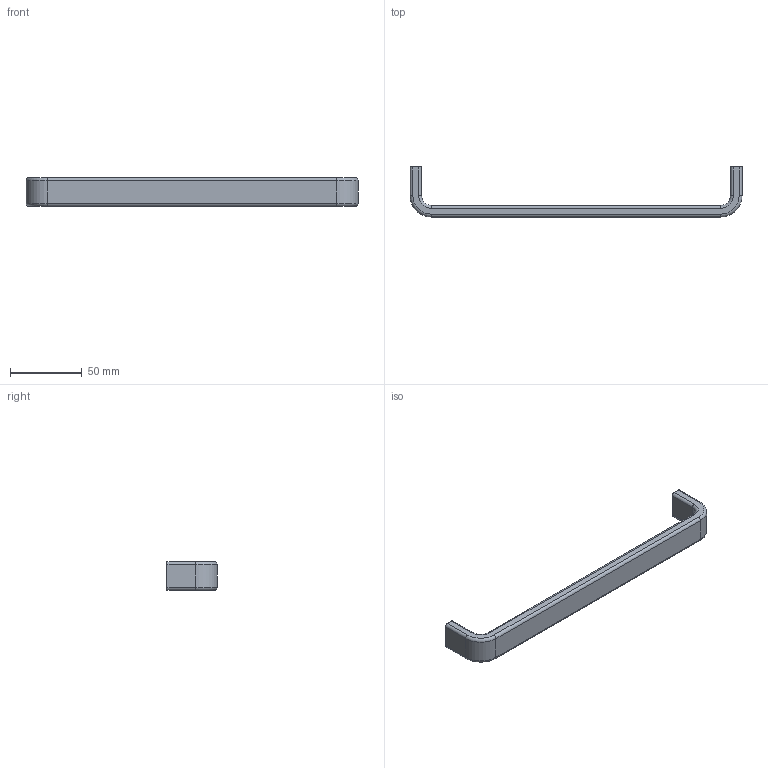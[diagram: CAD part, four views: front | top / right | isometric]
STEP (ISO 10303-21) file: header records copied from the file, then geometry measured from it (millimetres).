
FILE_DESCRIPTION( ( '' ), '1' );
FILE_NAME( 'C:/Documents and Settings/Sachin/Desktop/Sheet 10_1/stp/ 115150.stp', '2013-10-22T11:19:32', ( '' ), ( '' ), ' ', ' ', ' ' );
FILE_SCHEMA( ( 'CONFIG_CONTROL_DESIGN' ) );
Length unit declared in the file: millimetre
Products named in the file (1): 1
Bounding box: 232 x 35 x 20 mm (x, y, z)
Volume: 42906.9 mm3; surface area: 15164.9 mm2
Topology: 1 solids, 1 shells, 40 faces, 92 edges, 56 vertices
Faces by surface type: cylinder 20, plane 12, torus 8
Entity records: 1180 total; most frequent: DIRECTION 222, CARTESIAN_POINT 189, ORIENTED_EDGE 184, EDGE_CURVE 92, AXIS2_PLACEMENT_3D 89, VERTEX_POINT 56, CIRCLE 48, LINE 44
